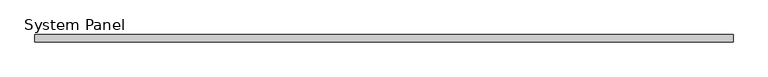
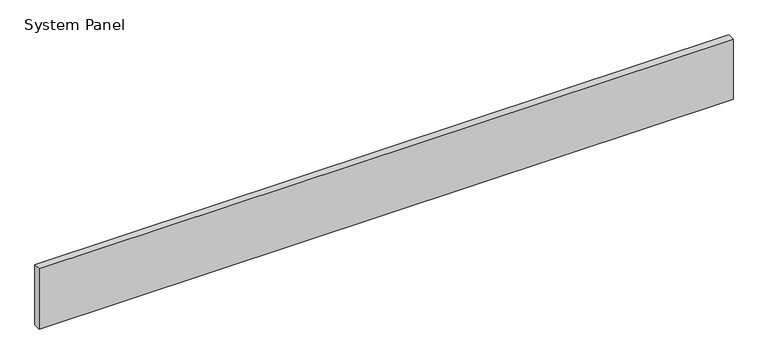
"""IFC4 building model written with IfcOpenShell, lengths in millimetres: plate geometry, System Panel : MetecnoPanel_125mm_Plain_Surfmist."""

from ifc_helpers import new_model, si_unit, origin, origin_with_axes, place, context, project, spatial, polyline, outline, extrude, source, transform, mapped, element, save


def system_panel_92c971d1(model_context):
    return source(origin(), model_context, "Body", "SweptSolid", [
        extrude(outline(polyline([(6000.0, 0.0), (-6000.0, 0.0), (-6000.0, 125.0), (6000.0, 125.0), (6000.0, 0.0)])), origin_with_axes(), (0.0, 0.0, 1.0), 1100.0),
    ])


if __name__ == "__main__":
    model = new_model("IFC4")
    model_context = context("Model", 3, world=origin())
    ifc_project = project(units=[si_unit("LENGTHUNIT", "METRE", prefix="MILLI")], contexts=[model_context])
    site = spatial("IfcSite", under=ifc_project)
    building = spatial("IfcBuilding", under=site)
    placement = place(None, origin())
    system_panel_shape = system_panel_92c971d1(model_context)
    element("IfcPlate", 1, ObjectType="System Panel : MetecnoPanel_125mm_Plain_Surfmist", at=placement, inside=building, context=model_context, shape_type="MappedRepresentation", body=[
        mapped(system_panel_shape, transform((0.0, 0.0, 0.0), x_axis=(1.0, 0.0, 0.0), y_axis=(0.0, 1.0, 0.0), z_axis=(0.0, 0.0, 1.0))),
    ])
    save(model, "model.ifc")
